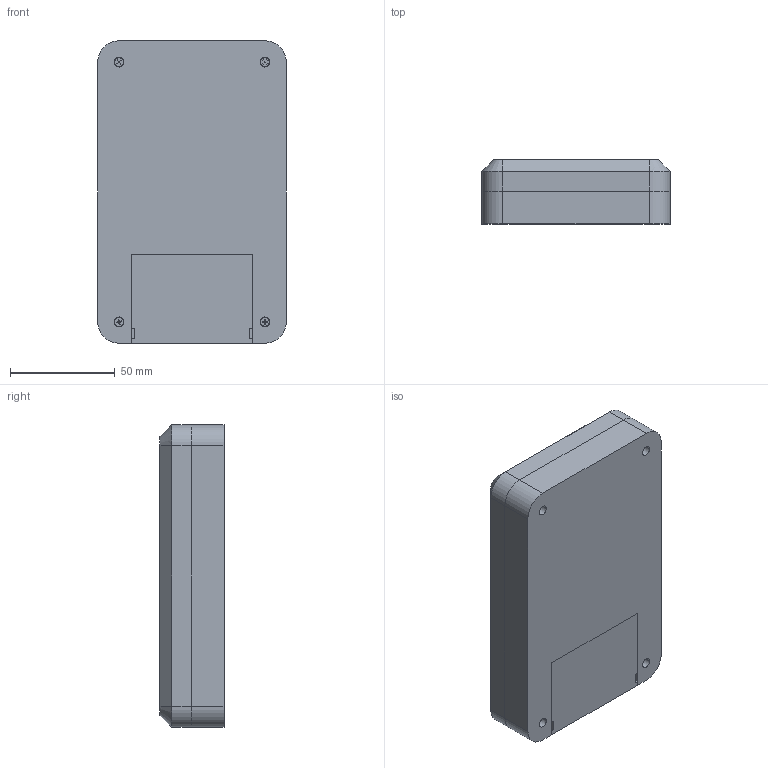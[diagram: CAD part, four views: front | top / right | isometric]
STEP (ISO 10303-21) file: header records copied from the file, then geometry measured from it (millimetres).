
FILE_DESCRIPTION (( 'STEP AP214' ), '1' );
FILE_NAME ('Conjunt PP80.STEP', '2018-01-16T01:55:06', ( 'aaa' ), ( '' ), 'SwSTEP 2.0', 'SolidWorks 2013', '' );
FILE_SCHEMA (( 'AUTOMOTIVE_DESIGN' ));
Length unit declared in the file: millimetre
Products named in the file (7): Cargol 2,9x6,5 PP80; Cargol 2,2x16 PP80; Conector electric PP80; Tapeta PP80; Tapa PP80; Cos PP80; Conjunt PP80
Assembly tree (15 placements, depth 2):
  Conjunt PP80
    Cos PP80
    Tapa PP80
    Tapeta PP80
    Conector electric PP80  x4
    Cargol 2,2x16 PP80  x4
    Cargol 2,9x6,5 PP80  x4
Bounding box: 89.8 x 30.5 x 144 mm (x, y, z)
Volume: 96791.5 mm3; surface area: 95473 mm2
Topology: 15 solids, 15 shells, 1351 faces, 3136 edges, 1852 vertices
Faces by surface type: cone 648, plane 511, cylinder 180, torus 8, sphere 4
Entity records: 20819 total; most frequent: DIRECTION 3606, CARTESIAN_POINT 3514, ORIENTED_EDGE 3436, EDGE_CURVE 1718, VECTOR 1266, LINE 1266, AXIS2_PLACEMENT_3D 1170, VERTEX_POINT 1078
